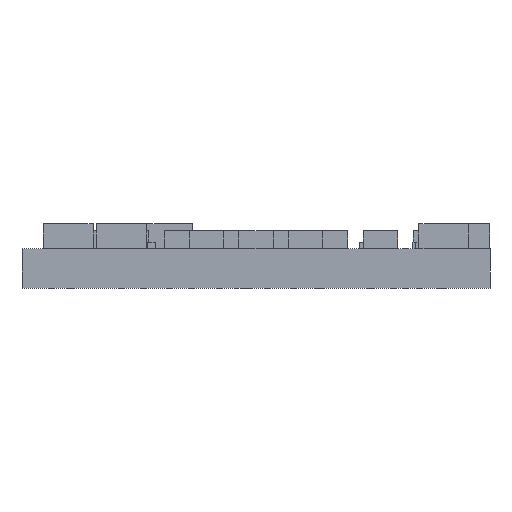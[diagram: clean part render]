
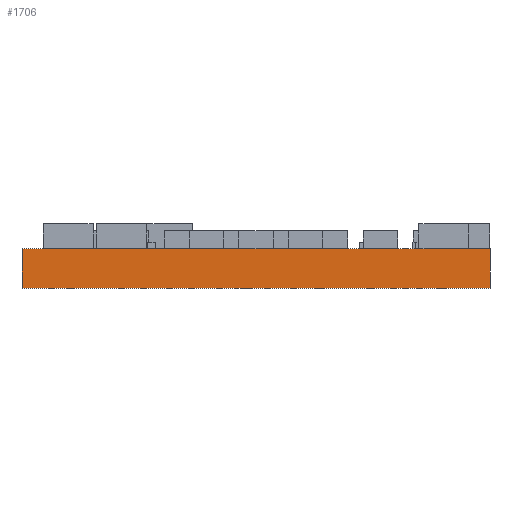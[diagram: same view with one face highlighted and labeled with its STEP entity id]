
A CAD part, front view. The second image highlights one B-rep face of the part: STEP entity #1706.
In plain terms, the highlighted planar face has unit normal (0, -1, 0).
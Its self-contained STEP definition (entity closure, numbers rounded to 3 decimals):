
#15=DIRECTION('',(1.,0.,0.));
#16=VECTOR('',#15,18.8);
#17=CARTESIAN_POINT('',(-9.4,-9.4,0.));
#18=LINE('',#17,#16);
#460=DIRECTION('',(0.,0.,1.));
#461=VECTOR('',#460,1.6);
#462=CARTESIAN_POINT('',(-9.4,-9.4,0.));
#463=LINE('',#462,#461);
#481=DIRECTION('',(0.,0.,1.));
#482=VECTOR('',#481,1.6);
#483=CARTESIAN_POINT('',(9.4,-9.4,0.));
#484=LINE('',#483,#482);
#488=DIRECTION('',(1.,0.,0.));
#489=VECTOR('',#488,18.8);
#490=CARTESIAN_POINT('',(-9.4,-9.4,1.6));
#491=LINE('',#490,#489);
#1296=CARTESIAN_POINT('',(-9.4,-9.4,0.));
#1297=CARTESIAN_POINT('',(9.4,-9.4,0.));
#1298=VERTEX_POINT('',#1296);
#1299=VERTEX_POINT('',#1297);
#1304=CARTESIAN_POINT('',(-9.4,-9.4,1.6));
#1305=CARTESIAN_POINT('',(9.4,-9.4,1.6));
#1306=VERTEX_POINT('',#1304);
#1307=VERTEX_POINT('',#1305);
#1692=CARTESIAN_POINT('',(-9.4,-9.4,0.));
#1693=DIRECTION('',(0.,-1.,0.));
#1694=DIRECTION('',(1.,0.,0.));
#1695=AXIS2_PLACEMENT_3D('',#1692,#1693,#1694);
#1696=PLANE('',#1695);
#1697=ORIENTED_EDGE('',*,*,#1525,.F.);
#1699=ORIENTED_EDGE('',*,*,#1698,.T.);
#1701=ORIENTED_EDGE('',*,*,#1700,.T.);
#1703=ORIENTED_EDGE('',*,*,#1702,.F.);
#1704=EDGE_LOOP('',(#1697,#1699,#1701,#1703));
#1705=FACE_OUTER_BOUND('',#1704,.F.);
#1525=EDGE_CURVE('',#1298,#1299,#18,.T.);
#1698=EDGE_CURVE('',#1298,#1306,#463,.T.);
#1700=EDGE_CURVE('',#1306,#1307,#491,.T.);
#1702=EDGE_CURVE('',#1299,#1307,#484,.T.);
#1706=ADVANCED_FACE('',(#1705),#1696,.T.);
